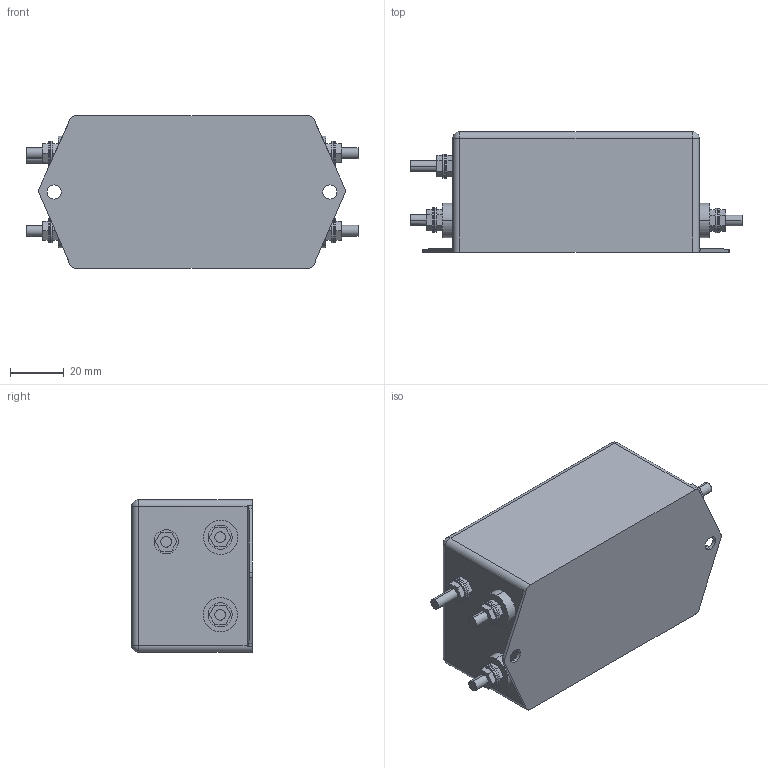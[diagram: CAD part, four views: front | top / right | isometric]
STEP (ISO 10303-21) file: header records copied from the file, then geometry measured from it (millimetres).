
FILE_DESCRIPTION (( 'STEP AP214' ), '1' );
FILE_NAME ('NF-20-1ph-GSG_.STEP', '2025-08-20T08:50:04', ( '' ), ( '' ), 'SwSTEP 2.0', 'SolidWorks 2025', '' );
FILE_SCHEMA (( 'AUTOMOTIVE_DESIGN' ));
Length unit declared in the file: millimetre
Products named in the file (5): AS 1474 - M4_2.stp.SLDPRT; NF-20-1ph-GSG_.stp; DIN 125-1 - B 4.3_2.stp.SLDPRT; NF-20-1ph-GSG_; 1000-009 s.stp
Assembly tree (22 placements, depth 3):
  NF-20-1ph-GSG_
    NF-20-1ph-GSG_.stp
      1000-009 s.stp
      DIN 125-1 - B 4.3_2.stp.SLDPRT  x10
      AS 1474 - M4_2.stp.SLDPRT  x10
Bounding box: 124 x 45 x 57 mm (x, y, z)
Volume: 239959.3 mm3; surface area: 28726.3 mm2
Topology: 21 solids, 21 shells, 294 faces, 657 edges, 410 vertices
Faces by surface type: plane 123, cylinder 103, cone 60, torus 4, sphere 4
Entity records: 3106 total; most frequent: CARTESIAN_POINT 573, DIRECTION 561, ORIENTED_EDGE 442, AXIS2_PLACEMENT_3D 230, EDGE_CURVE 221, VERTEX_POINT 140, EDGE_LOOP 113, CIRCLE 108
